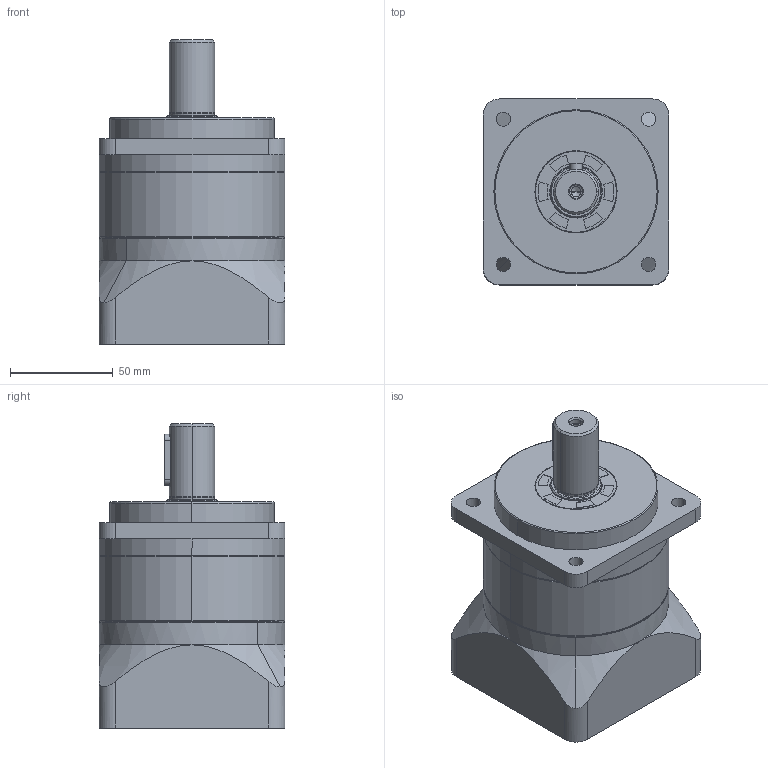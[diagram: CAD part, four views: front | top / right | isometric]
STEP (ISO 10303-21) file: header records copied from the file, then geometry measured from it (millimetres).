
FILE_DESCRIPTION (( 'STEP AP203' ), '1' );
FILE_NAME ('SA90-L1(12-83-104-M6).STEP', '2021-12-14T05:33:12', ( '' ), ( '' ), 'SwSTEP 2.0', 'SolidWorks 2016', '' );
FILE_SCHEMA (( 'CONFIG_CONTROL_DESIGN' ));
Length unit declared in the file: millimetre
Products named in the file (10): SA90-L1(12-83-104-M6); DP90; SN90-(83-104-M6); SN90-(19); SN90-48x27x15-M6; SN90-(22x37-6x25); SN90; SA90-(80x10-100-7); SN90-25x40x5; 90-(o19-12x26)
Assembly tree (9 placements, depth 2):
  SA90-L1(12-83-104-M6)
    SA90-(80x10-100-7)
    SN90-25x40x5
    SN90-(22x37-6x25)
    SN90
    DP90
    SN90-(83-104-M6)
    SN90-(19)
    SN90-48x27x15-M6
    90-(o19-12x26)
Bounding box: 90.5 x 90.5 x 148.1 mm (x, y, z)
Volume: 690575.4 mm3; surface area: 135324 mm2
Topology: 11 solids, 11 shells, 456 faces, 1190 edges, 759 vertices
Faces by surface type: cylinder 255, plane 118, cone 47, bspline 30, torus 6
Entity records: 32035 total; most frequent: CARTESIAN_POINT 20167, ORIENTED_EDGE 2336, DIRECTION 2227, EDGE_CURVE 1168, AXIS2_PLACEMENT_3D 876, VERTEX_POINT 759, EDGE_LOOP 541, VECTOR 475
